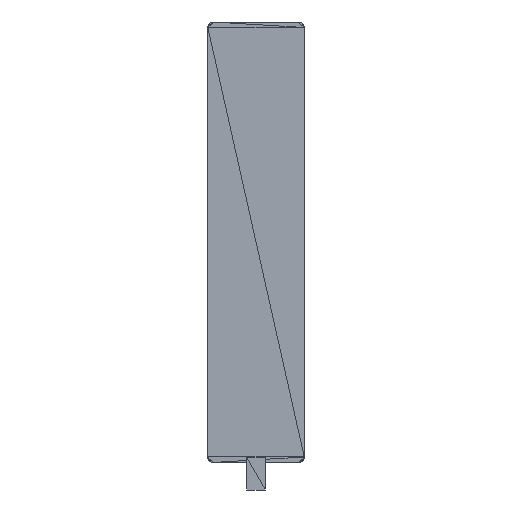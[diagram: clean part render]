
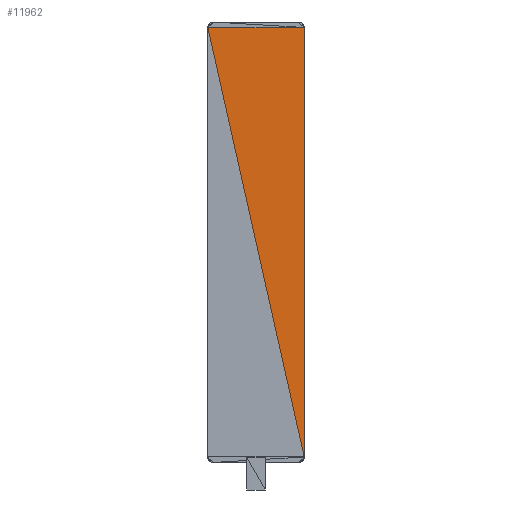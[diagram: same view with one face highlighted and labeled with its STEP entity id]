
A CAD part, front view. The second image highlights one B-rep face of the part: STEP entity #11962.
In plain terms, the highlighted planar face has unit normal (0, -1, 0) as drawn and (0, 0, 1) by its records, which use the part's own axes.
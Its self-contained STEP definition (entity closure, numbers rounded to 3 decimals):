
#1362 = VERTEX_POINT('',#1363);
#1363 = CARTESIAN_POINT('',(-46.8,-10.5,0.2));
#2010 = PLANE('',#2011);
#2011 = AXIS2_PLACEMENT_3D('',#2012,#2013,#2014);
#2012 = CARTESIAN_POINT('',(-47.104,-0.115,
    0.2));
#2013 = DIRECTION('',(0.,0.,1.));
#2014 = DIRECTION('',(1.,0.,-0.));
#2026 = VERTEX_POINT('',#2027);
#2027 = CARTESIAN_POINT('',(-46.8,10.5,0.2));
#3063 = VERTEX_POINT('',#3064);
#3064 = CARTESIAN_POINT('',(46.8,10.5,0.2));
#3163 = PLANE('',#3164);
#3164 = AXIS2_PLACEMENT_3D('',#3165,#3166,#3167);
#3165 = CARTESIAN_POINT('',(0.05,10.5,0.15));
#3166 = DIRECTION('',(0.,1.,0.));
#3167 = DIRECTION('',(0.,-0.,1.));
#6272 = PLANE('',#6273);
#6273 = AXIS2_PLACEMENT_3D('',#6274,#6275,#6276);
#6274 = CARTESIAN_POINT('',(4.668,-4.668,0.2
    ));
#6275 = DIRECTION('',(0.,0.,1.));
#6276 = DIRECTION('',(1.,0.,-0.));
#8718 = EDGE_CURVE('',#2026,#3063,#8719,.T.);
#8719 = SURFACE_CURVE('',#8720,(#8724,#8731),.PCURVE_S1.);
#8720 = LINE('',#8721,#8722);
#8721 = CARTESIAN_POINT('',(-46.8,10.5,0.2));
#8722 = VECTOR('',#8723,1.);
#8723 = DIRECTION('',(1.,0.,0.));
#8724 = PCURVE('',#3163,#8725);
#8725 = DEFINITIONAL_REPRESENTATION('',(#8726),#8730);
#8726 = LINE('',#8727,#8728);
#8727 = CARTESIAN_POINT('',(0.05,-46.85));
#8728 = VECTOR('',#8729,1.);
#8729 = DIRECTION('',(0.,1.));
#8730 = ( GEOMETRIC_REPRESENTATION_CONTEXT(2) 
PARAMETRIC_REPRESENTATION_CONTEXT() REPRESENTATION_CONTEXT('2D SPACE',''
  ) );
#8731 = PCURVE('',#8732,#8737);
#8732 = PLANE('',#8733);
#8733 = AXIS2_PLACEMENT_3D('',#8734,#8735,#8736);
#8734 = CARTESIAN_POINT('',(-4.668,4.668,0.2
    ));
#8735 = DIRECTION('',(0.,0.,1.));
#8736 = DIRECTION('',(1.,0.,-0.));
#8737 = DEFINITIONAL_REPRESENTATION('',(#8738),#8742);
#8738 = LINE('',#8739,#8740);
#8739 = CARTESIAN_POINT('',(-42.132,5.832));
#8740 = VECTOR('',#8741,1.);
#8741 = DIRECTION('',(1.,0.));
#8742 = ( GEOMETRIC_REPRESENTATION_CONTEXT(2) 
PARAMETRIC_REPRESENTATION_CONTEXT() REPRESENTATION_CONTEXT('2D SPACE',''
  ) );
#11962 = ADVANCED_FACE('',(#11963),#8732,.T.);
#11963 = FACE_BOUND('',#11964,.T.);
#11964 = EDGE_LOOP('',(#11965,#11966,#11987));
#11965 = ORIENTED_EDGE('',*,*,#8718,.F.);
#11966 = ORIENTED_EDGE('',*,*,#11967,.T.);
#11967 = EDGE_CURVE('',#2026,#1362,#11968,.T.);
#11968 = SURFACE_CURVE('',#11969,(#11973,#11980),.PCURVE_S1.);
#11969 = LINE('',#11970,#11971);
#11970 = CARTESIAN_POINT('',(-46.8,10.5,0.2));
#11971 = VECTOR('',#11972,1.);
#11972 = DIRECTION('',(0.,-1.,0.));
#11973 = PCURVE('',#8732,#11974);
#11974 = DEFINITIONAL_REPRESENTATION('',(#11975),#11979);
#11975 = LINE('',#11976,#11977);
#11976 = CARTESIAN_POINT('',(-42.132,5.832));
#11977 = VECTOR('',#11978,1.);
#11978 = DIRECTION('',(0.,-1.));
#11979 = ( GEOMETRIC_REPRESENTATION_CONTEXT(2) 
PARAMETRIC_REPRESENTATION_CONTEXT() REPRESENTATION_CONTEXT('2D SPACE',''
  ) );
#11980 = PCURVE('',#2010,#11981);
#11981 = DEFINITIONAL_REPRESENTATION('',(#11982),#11986);
#11982 = LINE('',#11983,#11984);
#11983 = CARTESIAN_POINT('',(0.304,10.615));
#11984 = VECTOR('',#11985,1.);
#11985 = DIRECTION('',(0.,-1.));
#11986 = ( GEOMETRIC_REPRESENTATION_CONTEXT(2) 
PARAMETRIC_REPRESENTATION_CONTEXT() REPRESENTATION_CONTEXT('2D SPACE',''
  ) );
#11987 = ORIENTED_EDGE('',*,*,#11988,.T.);
#11988 = EDGE_CURVE('',#1362,#3063,#11989,.T.);
#11989 = SURFACE_CURVE('',#11990,(#11994,#12001),.PCURVE_S1.);
#11990 = LINE('',#11991,#11992);
#11991 = CARTESIAN_POINT('',(-46.8,-10.5,0.2));
#11992 = VECTOR('',#11993,1.);
#11993 = DIRECTION('',(0.976,0.219,0.));
#11994 = PCURVE('',#8732,#11995);
#11995 = DEFINITIONAL_REPRESENTATION('',(#11996),#12000);
#11996 = LINE('',#11997,#11998);
#11997 = CARTESIAN_POINT('',(-42.132,-15.168));
#11998 = VECTOR('',#11999,1.);
#11999 = DIRECTION('',(0.976,0.219));
#12000 = ( GEOMETRIC_REPRESENTATION_CONTEXT(2) 
PARAMETRIC_REPRESENTATION_CONTEXT() REPRESENTATION_CONTEXT('2D SPACE',''
  ) );
#12001 = PCURVE('',#6272,#12002);
#12002 = DEFINITIONAL_REPRESENTATION('',(#12003),#12007);
#12003 = LINE('',#12004,#12005);
#12004 = CARTESIAN_POINT('',(-51.468,-5.832));
#12005 = VECTOR('',#12006,1.);
#12006 = DIRECTION('',(0.976,0.219));
#12007 = ( GEOMETRIC_REPRESENTATION_CONTEXT(2) 
PARAMETRIC_REPRESENTATION_CONTEXT() REPRESENTATION_CONTEXT('2D SPACE',''
  ) );
